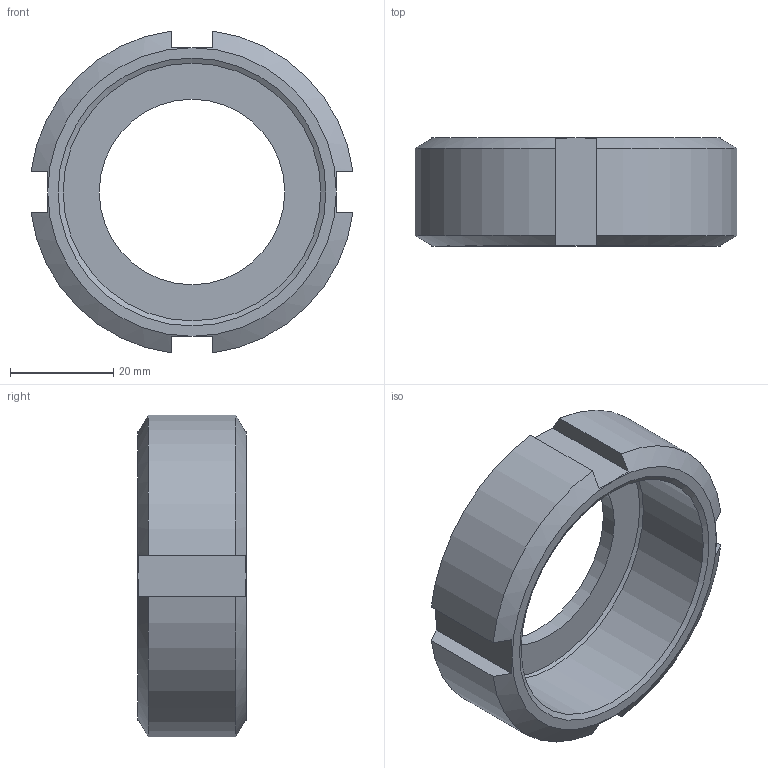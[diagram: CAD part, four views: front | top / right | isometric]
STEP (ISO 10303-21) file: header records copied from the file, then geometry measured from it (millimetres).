
FILE_DESCRIPTION((''),'2;1');
FILE_NAME('K:\2013 konstrukce\2xxxx\20030-Matice převlečná\2003-025 Převlečná matice.stp','2018-08-16T14:42:30',('konstrukce'),(''),'Autodesk Inventor 2010','Autodesk Inventor 2010','');
FILE_SCHEMA(('AUTOMOTIVE_DESIGN { 1 0 10303 214 1 1 1 1 }'));
Length unit declared in the file: millimetre
Products named in the file (1): 2003-025 Převlečná matice
Bounding box: 62.49 x 21 x 62.49 mm (x, y, z)
Volume: 23523.8 mm3; surface area: 11448.6 mm2
Topology: 1 solids, 1 shells, 32 faces, 75 edges, 47 vertices
Faces by surface type: plane 16, cone 10, cylinder 6
Full cylindrical faces by diameter (mm): 36 x1, 50 x1
Entity records: 888 total; most frequent: CARTESIAN_POINT 215, ORIENTED_EDGE 142, DIRECTION 128, EDGE_CURVE 71, AXIS2_PLACEMENT_3D 56, VERTEX_POINT 47, EDGE_LOOP 40, FACE_OUTER_BOUND 32
